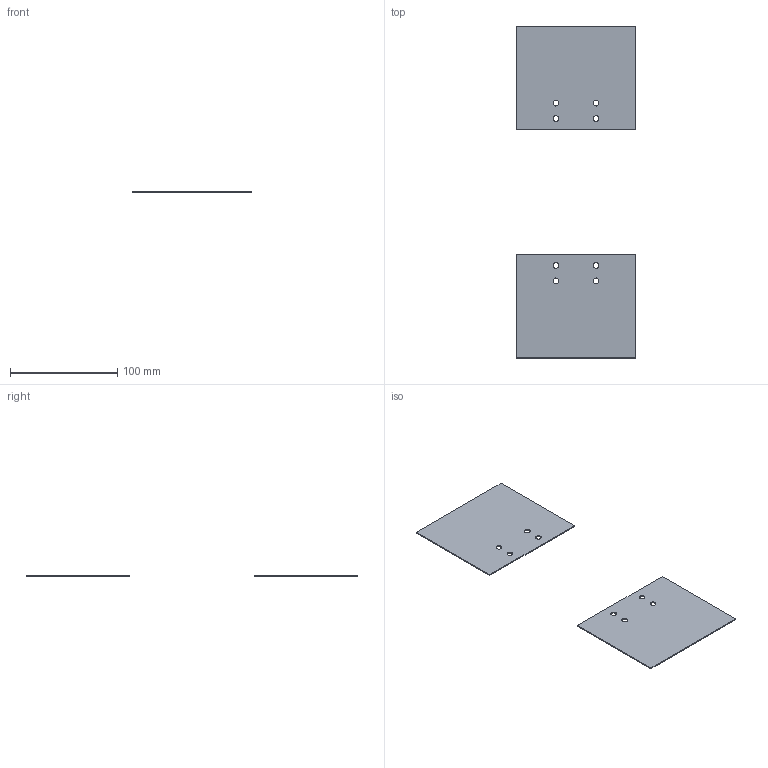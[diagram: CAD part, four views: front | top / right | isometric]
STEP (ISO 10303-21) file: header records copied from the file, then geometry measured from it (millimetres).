
FILE_DESCRIPTION (( 'STEP AP214' ), '1' );
FILE_NAME ('ÂÀ04-36 Èçîëèðóþùèå ýêðàíû.STEP', '2023-07-14T07:34:57', ( '' ), ( '' ), 'SwSTEP 2.0', 'SolidWorks 2018', '' );
FILE_SCHEMA (( 'AUTOMOTIVE_DESIGN' ));
Length unit declared in the file: millimetre
Products named in the file (1): ÂÀ04-36 Èçîëèðóþùèå ýêðàíû
Bounding box: 112 x 310 x 1 mm (x, y, z)
Volume: 21544.8 mm3; surface area: 44061.3 mm2
Topology: 2 solids, 2 shells, 28 faces, 72 edges, 48 vertices
Faces by surface type: cylinder 16, plane 12
Entity records: 1251 total; most frequent: DIRECTION 162, CARTESIAN_POINT 149, ORIENTED_EDGE 144, EDGE_CURVE 72, AXIS2_PLACEMENT_3D 61, VERTEX_POINT 48, EDGE_LOOP 44, LINE 40
